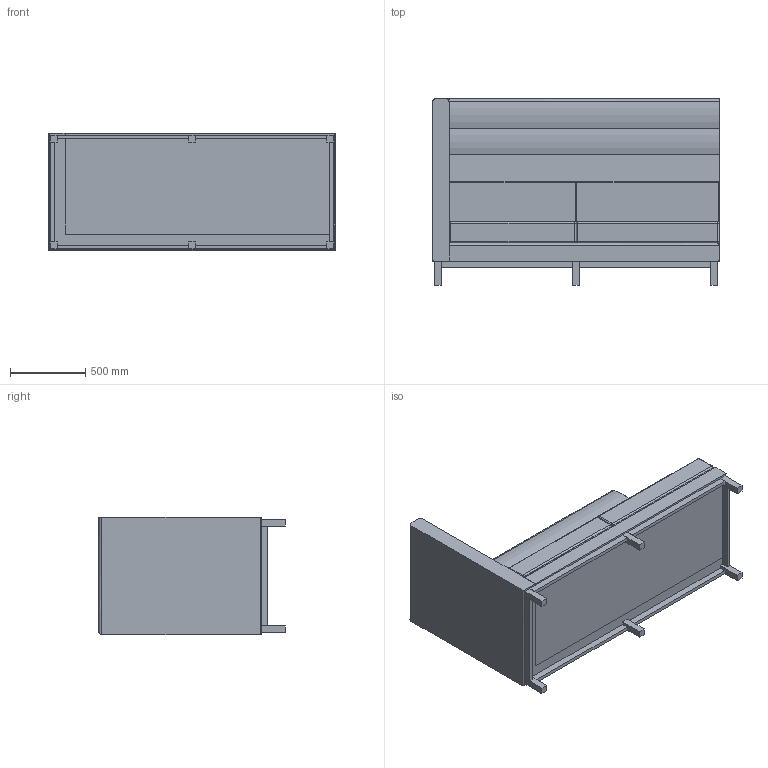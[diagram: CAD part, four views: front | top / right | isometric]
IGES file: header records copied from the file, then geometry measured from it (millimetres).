
Start section: SolidWorks IGES file using analytic representation for surfaces
Global section: file name: P:\3D CAD BLOCKS\ARTHUR CITYSCAPE\HB Bumped Compact RH\IGS\ART-HB-COMP-BUMP-RH-ART-CITY-RH.IGS; native system: SolidWorks 2012; preprocessor: SolidWorks 2012; author: tom; date: 160523.090643; units: millimetre
Bounding box: 1910 x 1240 x 780 mm (x, y, z)
Surface area: 14656687.8 mm2 (no closed solid volume)
Topology: 0 solids, 0 shells, 203 faces, 1018 edges, 1011 vertices
Faces by surface type: bspline 110, revolution 93
